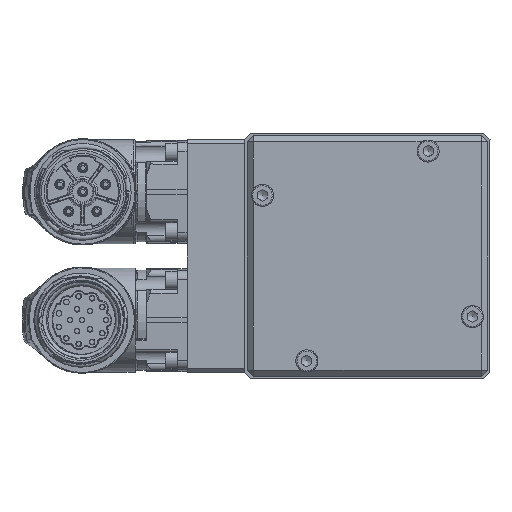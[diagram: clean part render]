
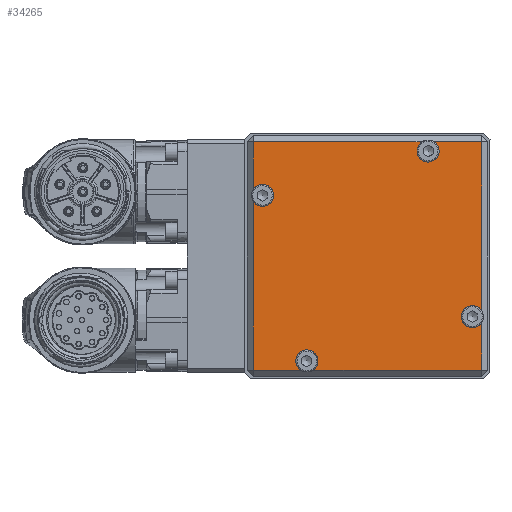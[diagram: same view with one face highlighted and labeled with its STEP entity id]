
A CAD part, left-side view. The second image highlights one B-rep face of the part: STEP entity #34265.
In plain terms, the highlighted planar face has unit normal (-1, 0, 0).
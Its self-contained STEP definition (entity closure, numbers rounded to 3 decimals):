
#3504=LINE('',#49747,#5164);
#3506=LINE('',#49749,#5166);
#3519=LINE('',#49784,#5179);
#3521=LINE('',#49786,#5181);
#3522=LINE('',#49795,#5182);
#3524=LINE('',#49797,#5184);
#3525=LINE('',#49806,#5185);
#3527=LINE('',#49808,#5187);
#5164=VECTOR('',#40603,11.872);
#5166=VECTOR('',#40605,42.122);
#5179=VECTOR('',#40634,11.872);
#5181=VECTOR('',#40636,42.122);
#5182=VECTOR('',#40645,11.872);
#5184=VECTOR('',#40647,42.122);
#5185=VECTOR('',#40656,11.872);
#5187=VECTOR('',#40658,42.122);
#6756=PLANE('',#36518);
#7388=FACE_OUTER_BOUND('',#9544,.T.);
#9544=EDGE_LOOP('',(#22259,#22260,#22261,#22262,#22263,#22264,#22265,#22266,
#22267,#22268,#22269,#22270));
#11835=CIRCLE('',#36517,2.75);
#11836=CIRCLE('',#36519,2.75);
#11837=CIRCLE('',#36520,2.75);
#11838=CIRCLE('',#36521,2.75);
#13616=VERTEX_POINT('',#49715);
#13621=VERTEX_POINT('',#49728);
#13625=VERTEX_POINT('',#49740);
#13628=VERTEX_POINT('',#49745);
#13630=VERTEX_POINT('',#49752);
#13635=VERTEX_POINT('',#49765);
#13639=VERTEX_POINT('',#49777);
#13642=VERTEX_POINT('',#49782);
#13643=VERTEX_POINT('',#49788);
#13646=VERTEX_POINT('',#49793);
#13647=VERTEX_POINT('',#49799);
#13650=VERTEX_POINT('',#49804);
#16892=EDGE_CURVE('',#13628,#13621,#3504,.T.);
#16894=EDGE_CURVE('',#13616,#13625,#3506,.T.);
#16910=EDGE_CURVE('',#13642,#13635,#3519,.T.);
#16912=EDGE_CURVE('',#13621,#13639,#3521,.T.);
#16916=EDGE_CURVE('',#13646,#13630,#3522,.T.);
#16918=EDGE_CURVE('',#13635,#13643,#3524,.T.);
#16922=EDGE_CURVE('',#13650,#13616,#3525,.T.);
#16924=EDGE_CURVE('',#13630,#13647,#3527,.T.);
#16928=EDGE_CURVE('',#13628,#13625,#11835,.T.);
#16929=EDGE_CURVE('',#13650,#13647,#11836,.T.);
#16930=EDGE_CURVE('',#13646,#13643,#11837,.T.);
#16931=EDGE_CURVE('',#13642,#13639,#11838,.T.);
#22259=ORIENTED_EDGE('',*,*,#16912,.F.);
#22260=ORIENTED_EDGE('',*,*,#16892,.F.);
#22261=ORIENTED_EDGE('',*,*,#16928,.T.);
#22262=ORIENTED_EDGE('',*,*,#16894,.F.);
#22263=ORIENTED_EDGE('',*,*,#16922,.F.);
#22264=ORIENTED_EDGE('',*,*,#16929,.T.);
#22265=ORIENTED_EDGE('',*,*,#16924,.F.);
#22266=ORIENTED_EDGE('',*,*,#16916,.F.);
#22267=ORIENTED_EDGE('',*,*,#16930,.T.);
#22268=ORIENTED_EDGE('',*,*,#16918,.F.);
#22269=ORIENTED_EDGE('',*,*,#16910,.F.);
#22270=ORIENTED_EDGE('',*,*,#16931,.T.);
#34265=ADVANCED_FACE('',(#7388),#6756,.T.);
#36517=AXIS2_PLACEMENT_3D('',#49815,#40669,#40670);
#36518=AXIS2_PLACEMENT_3D('',#49816,#40671,#40672);
#36519=AXIS2_PLACEMENT_3D('',#49817,#40673,#40674);
#36520=AXIS2_PLACEMENT_3D('',#49818,#40675,#40676);
#36521=AXIS2_PLACEMENT_3D('',#49819,#40677,#40678);
#40603=DIRECTION('',(0.,0.,-1.));
#40605=DIRECTION('',(0.,0.,-1.));
#40634=DIRECTION('',(0.,1.,0.));
#40636=DIRECTION('',(0.,1.,0.));
#40645=DIRECTION('',(0.,0.,1.));
#40647=DIRECTION('',(0.,0.,1.));
#40656=DIRECTION('',(0.,-1.,0.));
#40658=DIRECTION('',(0.,-1.,0.));
#40669=DIRECTION('center_axis',(1.,0.,0.));
#40670=DIRECTION('ref_axis',(0.,0.,
-1.));
#40671=DIRECTION('center_axis',(-1.,0.,0.));
#40672=DIRECTION('ref_axis',(0.,1.,0.));
#40673=DIRECTION('center_axis',(1.,0.,0.));
#40674=DIRECTION('ref_axis',(0.,-1.,0.));
#40675=DIRECTION('center_axis',(1.,0.,0.));
#40676=DIRECTION('ref_axis',(0.,0.,
1.));
#40677=DIRECTION('center_axis',(1.,0.,0.));
#40678=DIRECTION('ref_axis',(0.,1.,0.));
#49715=CARTESIAN_POINT('',(-146.5,-28.5,28.5));
#49728=CARTESIAN_POINT('',(-146.5,-28.5,-28.5));
#49740=CARTESIAN_POINT('',(-146.5,-28.5,-13.622));
#49745=CARTESIAN_POINT('',(-146.5,-28.5,-16.628));
#49747=CARTESIAN_POINT('',(-146.5,-28.5,15.));
#49749=CARTESIAN_POINT('',(-146.5,-28.5,15.));
#49752=CARTESIAN_POINT('',(-146.5,28.5,28.5));
#49765=CARTESIAN_POINT('',(-146.5,28.5,-28.5));
#49777=CARTESIAN_POINT('',(-146.5,13.622,-28.5));
#49782=CARTESIAN_POINT('',(-146.5,16.628,-28.5));
#49784=CARTESIAN_POINT('',(-146.5,-15.,-28.5));
#49786=CARTESIAN_POINT('',(-146.5,-15.,-28.5));
#49788=CARTESIAN_POINT('',(-146.5,28.5,13.622));
#49793=CARTESIAN_POINT('',(-146.5,28.5,16.628));
#49795=CARTESIAN_POINT('',(-146.5,28.5,-15.));
#49797=CARTESIAN_POINT('',(-146.5,28.5,-15.));
#49799=CARTESIAN_POINT('',(-146.5,-13.622,28.5));
#49804=CARTESIAN_POINT('',(-146.5,-16.628,28.5));
#49806=CARTESIAN_POINT('',(-146.5,15.,28.5));
#49808=CARTESIAN_POINT('',(-146.5,15.,28.5));
#49815=CARTESIAN_POINT('Origin',(-146.5,-26.197,-15.125));
#49816=CARTESIAN_POINT('Origin',(-146.5,0.,0.));
#49817=CARTESIAN_POINT('Origin',(-146.5,-15.125,26.197));
#49818=CARTESIAN_POINT('Origin',(-146.5,26.197,15.125));
#49819=CARTESIAN_POINT('Origin',(-146.5,15.125,-26.197));
